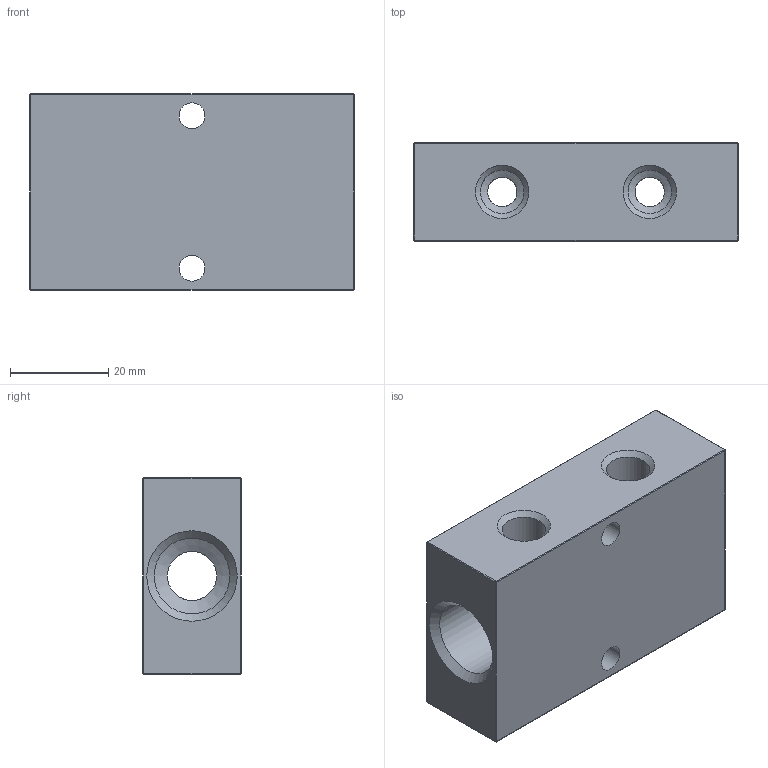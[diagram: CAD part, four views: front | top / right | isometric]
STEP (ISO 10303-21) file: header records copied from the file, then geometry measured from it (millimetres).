
FILE_DESCRIPTION(/* description */ (''),/* implementation_level */ '2;1');
FILE_NAME(/* name */ 'S:\_Tecnico\ArchivioUT\_Disegni3D ingombri\DISEGNI 3D per ingombri\RL\RL52381822.stp',/* time_stamp */ '2020-02-20T11:23:46+01:00',/* author */ ('UfficioTecnico'),/* organization */ (''),/* preprocessor_version */ 'ST-DEVELOPER v18',/* originating_system */ 'Autodesk Inventor 2020',/* authorisation */ '');
FILE_SCHEMA (('AUTOMOTIVE_DESIGN { 1 0 10303 214 3 1 1 }'));
Length unit declared in the file: millimetre
Products named in the file (1): RL51381802
Bounding box: 66 x 20 x 40 mm (x, y, z)
Volume: 40477.7 mm3; surface area: 13478.5 mm2
Topology: 1 solids, 1 shells, 51 faces, 123 edges, 74 vertices
Faces by surface type: cylinder 25, cone 12, sphere 8, plane 6
Full cylindrical faces by diameter (mm): 5.25 x2, 6 x4, 8.848 x4, 10 x1, 15.395 x2
Entity records: 1680 total; most frequent: CARTESIAN_POINT 385, DIRECTION 285, ORIENTED_EDGE 246, EDGE_CURVE 123, AXIS2_PLACEMENT_3D 118, VERTEX_POINT 74, CIRCLE 66, EDGE_LOOP 65
